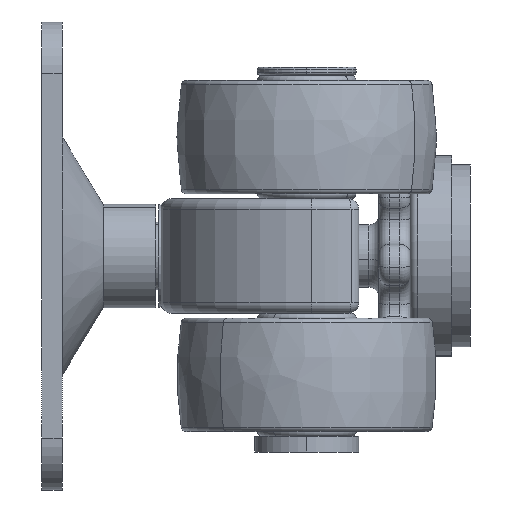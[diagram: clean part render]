
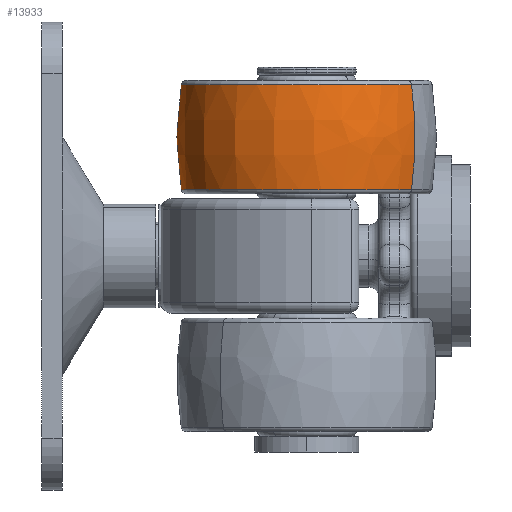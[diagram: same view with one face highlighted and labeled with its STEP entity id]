
A CAD part, left-side view. The second image highlights one B-rep face of the part: STEP entity #13933.
In plain terms, the highlighted free-form (B-spline) face has degree [3, 3] with [4, 4] control points.
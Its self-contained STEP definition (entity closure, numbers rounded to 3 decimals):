
#86 =( BOUNDED_SURFACE ( )  B_SPLINE_SURFACE ( 3, 3, ( 
 ( #14223, #15352, #3228, #11748 ),
 ( #7999, #10631, #5603, #4410 ),
 ( #12878, #917, #9433, #2021 ),
 ( #994, #10711, #9270, #1070 ) ),
 .UNSPECIFIED., .F., .F., .F. ) 
 B_SPLINE_SURFACE_WITH_KNOTS ( ( 4, 4 ),
 ( 4, 4 ),
 ( 0., 1. ),
 ( 0., 1. ),
 .UNSPECIFIED. ) 
 GEOMETRIC_REPRESENTATION_ITEM ( )  RATIONAL_B_SPLINE_SURFACE ( (
 ( 1., 0.333, 0.333, 1.),
 ( 0.991, 0.33, 0.33, 0.991),
 ( 0.991, 0.33, 0.33, 0.991),
 ( 1., 0.333, 0.333, 1.) ) ) 
 REPRESENTATION_ITEM ( '' )  SURFACE ( )  );
#433 = DIRECTION ( 'NONE',  ( -0.834, 0.551, 0. ) ) ;
#777 = CARTESIAN_POINT ( 'NONE',  ( -6.694, 30.151, 12.782 ) ) ;
#917 = CARTESIAN_POINT ( 'NONE',  ( -48.27, 58.969, 19.462 ) ) ;
#994 = CARTESIAN_POINT ( 'NONE',  ( -6.694, 30.151, 12.782 ) ) ;
#1070 = CARTESIAN_POINT ( 'NONE',  ( -33.306, -10.151, 12.782 ) ) ;
#1255 = CARTESIAN_POINT ( 'NONE',  ( -20., 10., 32.918 ) ) ;
#2021 = CARTESIAN_POINT ( 'NONE',  ( -33.933, -11.102, 19.462 ) ) ;
#2798 = VERTEX_POINT ( 'NONE', #9042 ) ;
#3228 = CARTESIAN_POINT ( 'NONE',  ( -73.608, 16.46, 32.918 ) ) ;
#3649 = DIRECTION ( 'NONE',  ( 0.551, 0.834, 0. ) ) ;
#4200 = EDGE_CURVE ( 'NONE', #2798, #7304, #5678, .T. ) ;
#4410 = CARTESIAN_POINT ( 'NONE',  ( -33.933, -11.102, 26.238 ) ) ;
#4547 = CIRCLE ( 'NONE', #15761, 59.89 ) ;
#4906 = ORIENTED_EDGE ( 'NONE', *, *, #13222, .F. ) ;
#5192 = CARTESIAN_POINT ( 'NONE',  ( -39.225, -19.116, 22.85 ) ) ;
#5603 = CARTESIAN_POINT ( 'NONE',  ( -76.137, 16.765, 26.238 ) ) ;
#5678 = CIRCLE ( 'NONE', #9792, 59.89 ) ;
#5693 = EDGE_CURVE ( 'NONE', #10533, #2798, #14368, .T. ) ;
#5762 = FACE_OUTER_BOUND ( 'NONE', #11549, .T. ) ;
#6300 = CARTESIAN_POINT ( 'NONE',  ( -20., 10., 12.782 ) ) ;
#7304 = VERTEX_POINT ( 'NONE', #14789 ) ;
#7999 = CARTESIAN_POINT ( 'NONE',  ( -6.067, 31.102, 26.238 ) ) ;
#8777 = ORIENTED_EDGE ( 'NONE', *, *, #4200, .T. ) ;
#8917 = CIRCLE ( 'NONE', #14543, 24.148 ) ;
#9042 = CARTESIAN_POINT ( 'NONE',  ( -33.306, -10.151, 12.782 ) ) ;
#9270 = CARTESIAN_POINT ( 'NONE',  ( -73.608, 16.46, 12.782 ) ) ;
#9433 = CARTESIAN_POINT ( 'NONE',  ( -76.137, 16.765, 19.462 ) ) ;
#9652 = DIRECTION ( 'NONE',  ( 0.551, 0.834, 0. ) ) ;
#9763 = ORIENTED_EDGE ( 'NONE', *, *, #5693, .T. ) ;
#9792 = AXIS2_PLACEMENT_3D ( 'NONE', #10302, #433, #15186 ) ;
#10302 = CARTESIAN_POINT ( 'NONE',  ( -0.775, 39.116, 22.85 ) ) ;
#10377 = DIRECTION ( 'NONE',  ( 0.834, -0.551, 0. ) ) ;
#10533 = VERTEX_POINT ( 'NONE', #777 ) ;
#10631 = CARTESIAN_POINT ( 'NONE',  ( -48.27, 58.969, 26.238 ) ) ;
#10711 = CARTESIAN_POINT ( 'NONE',  ( -46.997, 56.762, 12.782 ) ) ;
#10907 = VERTEX_POINT ( 'NONE', #15040 ) ;
#11447 = EDGE_CURVE ( 'NONE', #10533, #10907, #4547, .T. ) ;
#11549 = EDGE_LOOP ( 'NONE', ( #9763, #8777, #4906, #13804 ) ) ;
#11748 = CARTESIAN_POINT ( 'NONE',  ( -33.306, -10.151, 32.918 ) ) ;
#12052 = DIRECTION ( 'NONE',  ( 0., 0., 1. ) ) ;
#12589 = AXIS2_PLACEMENT_3D ( 'NONE', #6300, #12052, #9652 ) ;
#12878 = CARTESIAN_POINT ( 'NONE',  ( -6.067, 31.102, 19.462 ) ) ;
#13222 = EDGE_CURVE ( 'NONE', #10907, #7304, #8917, .T. ) ;
#13804 = ORIENTED_EDGE ( 'NONE', *, *, #11447, .F. ) ;
#13933 = ADVANCED_FACE ( 'NONE', ( #5762 ), #86, .T. ) ;
#14223 = CARTESIAN_POINT ( 'NONE',  ( -6.694, 30.151, 32.918 ) ) ;
#14368 = CIRCLE ( 'NONE', #12589, 24.148 ) ;
#14543 = AXIS2_PLACEMENT_3D ( 'NONE', #1255, #15774, #3649 ) ;
#14789 = CARTESIAN_POINT ( 'NONE',  ( -33.306, -10.151, 32.918 ) ) ;
#15040 = CARTESIAN_POINT ( 'NONE',  ( -6.694, 30.151, 32.918 ) ) ;
#15095 = DIRECTION ( 'NONE',  ( 0.551, 0.834, 0. ) ) ;
#15186 = DIRECTION ( 'NONE',  ( -0.551, -0.834, 0. ) ) ;
#15352 = CARTESIAN_POINT ( 'NONE',  ( -46.997, 56.762, 32.918 ) ) ;
#15761 = AXIS2_PLACEMENT_3D ( 'NONE', #5192, #10377, #15095 ) ;
#15774 = DIRECTION ( 'NONE',  ( 0., 0., 1. ) ) ;
